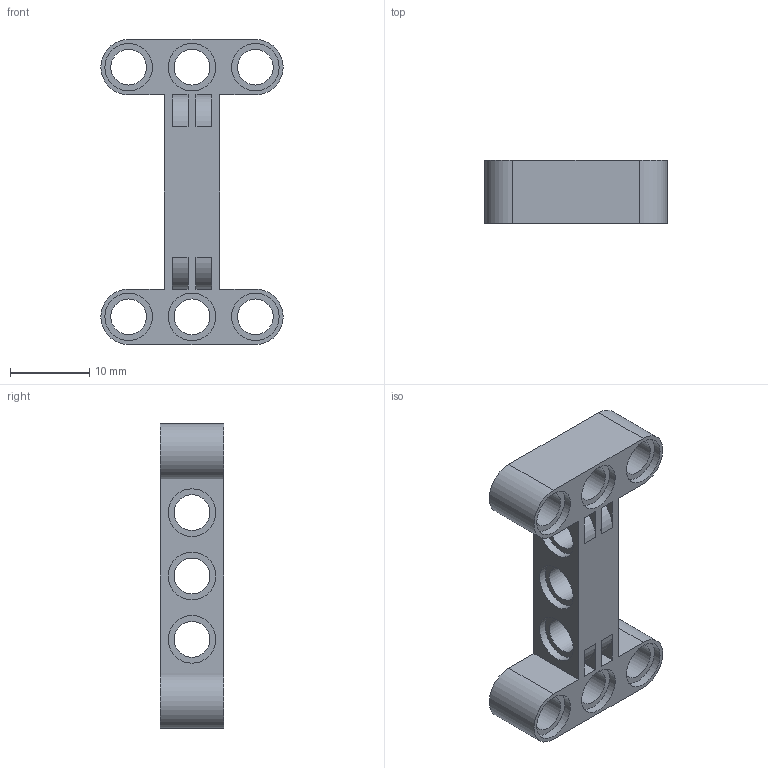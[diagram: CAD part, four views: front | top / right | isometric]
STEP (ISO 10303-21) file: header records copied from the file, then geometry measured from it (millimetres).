
FILE_DESCRIPTION(/* description */ (''),/* implementation_level */ '2;1');
FILE_NAME(/* name */ 'C:/Users/Norberto Torres/Documents/School/DASL/LEGO Parts/14720 - I Beam v3.step',/* time_stamp */ '2019-02-26T20:22:14-08:00',/* author */ ('norbertotorres94@hotmail.com'),/* organization */ (''),/* preprocessor_version */ 'ST-DEVELOPER v17.2',/* originating_system */ 'Autodesk Translation Framework v7.6.0.251',/* authorisation */ '');
FILE_SCHEMA (('AUTOMOTIVE_DESIGN { 1 0 10303 214 3 1 1 }'));
Length unit declared in the file: millimetre
Products named in the file (1): 14720 - I Beam
Bounding box: 23 x 8 x 38.5 mm (x, y, z)
Volume: 2404.8 mm3; surface area: 3018.3 mm2
Topology: 1 solids, 1 shells, 91 faces, 201 edges, 130 vertices
Faces by surface type: plane 52, cylinder 39
Full cylindrical faces by diameter (mm): 4.5 x9, 6 x18
Entity records: 2621 total; most frequent: DIRECTION 475, CARTESIAN_POINT 423, ORIENTED_EDGE 402, EDGE_CURVE 201, AXIS2_PLACEMENT_3D 182, EDGE_LOOP 135, VERTEX_POINT 130, LINE 111
